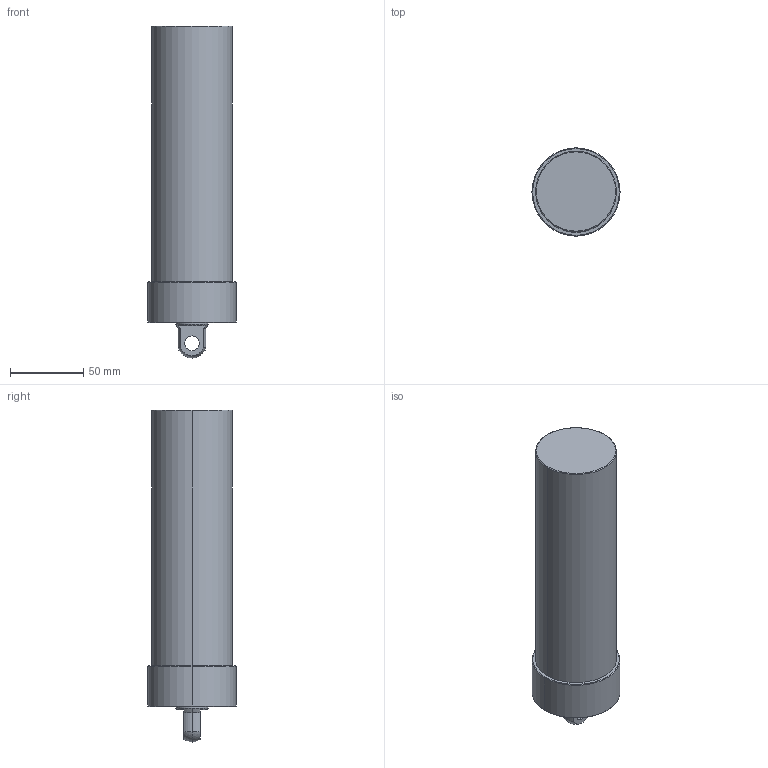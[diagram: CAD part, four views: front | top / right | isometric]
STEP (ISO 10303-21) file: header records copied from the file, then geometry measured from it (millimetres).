
FILE_DESCRIPTION (( 'STEP AP203' ), '1' );
FILE_NAME ('CLLU-055GP-145.STEP', '2020-01-06T07:48:38', ( '' ), ( '' ), 'SwSTEP 2.0', 'SolidWorks 2015', '' );
FILE_SCHEMA (( 'CONFIG_CONTROL_DESIGN' ));
Length unit declared in the file: millimetre
Products named in the file (1): CLLU-055GP-145
Bounding box: 60 x 60 x 226 mm (x, y, z)
Volume: 494791.7 mm3; surface area: 43318.8 mm2
Topology: 1 solids, 1 shells, 58 faces, 131 edges, 75 vertices
Faces by surface type: cylinder 23, cone 18, plane 9, torus 6, sphere 2
Entity records: 1658 total; most frequent: DIRECTION 311, CARTESIAN_POINT 269, ORIENTED_EDGE 246, AXIS2_PLACEMENT_3D 133, EDGE_CURVE 123, VERTEX_POINT 75, CIRCLE 74, EDGE_LOOP 68
